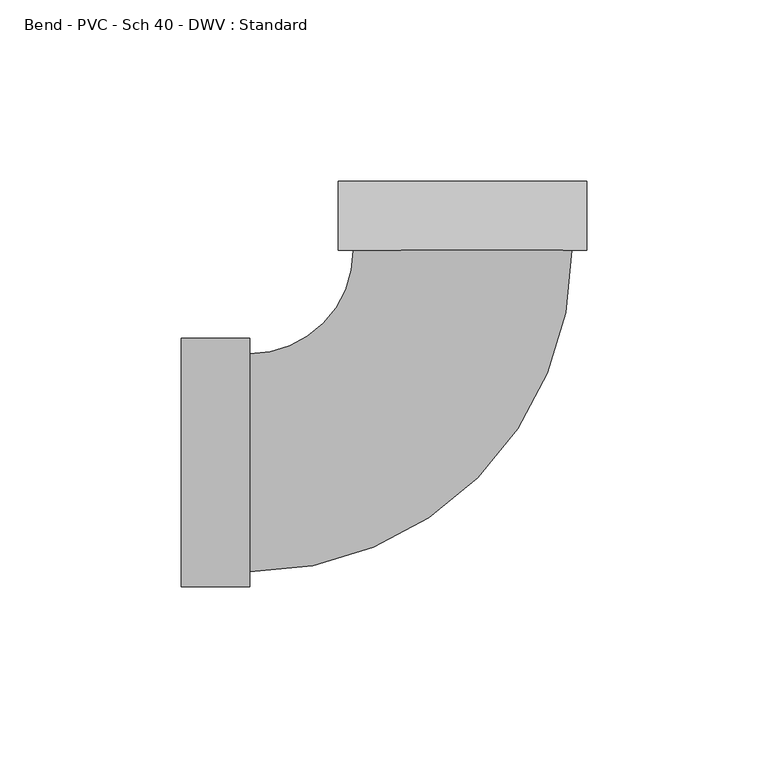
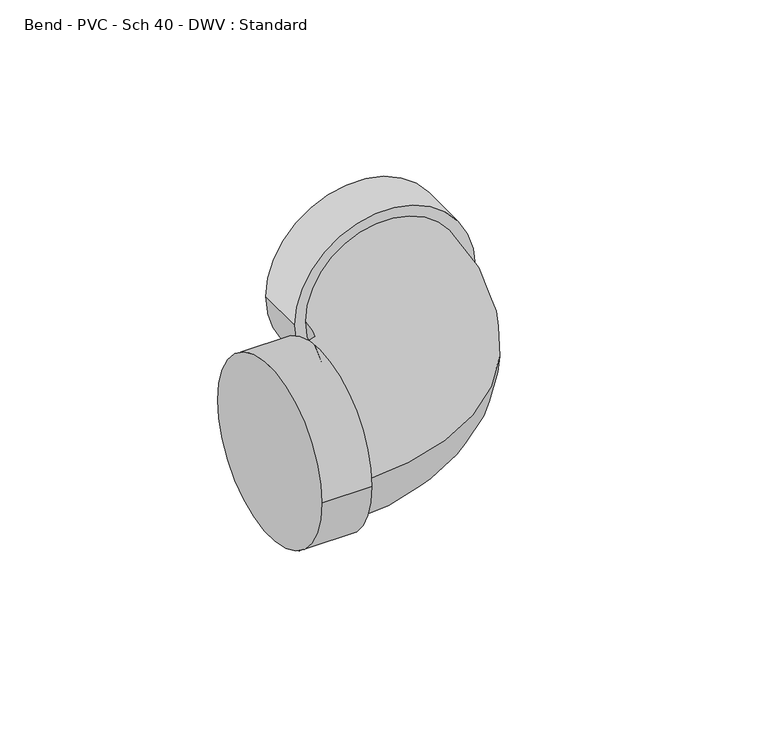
"""IFC4 building model written with IfcOpenShell, lengths in millimetres: pipe fitting geometry, Bend - PVC - Sch 40 - DWV : Standard."""

from ifc_helpers import new_model, si_unit, point, frame, origin, place, context, project, spatial, circle_curve, ellipse_curve, trimmed, source, transform, mapped, element, save
from ifc_brep_helpers import plane_surface, cylinder_surface, revolved_surface, advanced_brep


def bend_pvc_sch_40_dwv_standard_baa756fd(model_context):
    return source(origin(), model_context, "Body", "AdvancedBrep", [
        advanced_brep(
        [(-77.8002, -34.3154, 0.0), (-77.8002, 34.3154, 0.0), (-58.7502, -34.3154, 0.0), (-58.7502, 34.3154, 0.0), (-58.7502, -30.1625, 0.0), (-58.7502, 30.1625, 0.0), (-30.1644752, 58.7491859, 0.0), (30.1605247, 58.7512141, 0.0), (34.3134247, 58.7513537, 0.0), (-34.3173752, 58.7490463, 0.0), (34.3127843, 77.8013537, 0.0), (-34.3180157, 77.7990462, 0.0)],
        [
            (0, 1, circle_curve(frame((-77.8002, 0.0, 0.0), z_axis=(-1.0, 0.0, 0.0), x_axis=(0.0, 1.0, 0.0)), 34.3154)),
            (1, 0, circle_curve(frame((-77.8002, 0.0, 0.0), z_axis=(-1.0, 0.0, 0.0), x_axis=(0.0, 1.0, 0.0)), 34.3154)),
            (2, 3, circle_curve(frame((-58.7502, 0.0, 0.0), z_axis=(1.0, 0.0, 0.0), x_axis=(0.0, 1.0, 0.0)), 34.3154)),
            (3, 2, circle_curve(frame((-58.7502, 0.0, 0.0), z_axis=(1.0, 0.0, 0.0), x_axis=(0.0, 1.0, 0.0)), 34.3154)),
            (4, 5, circle_curve(frame((-58.7502, 0.0, 0.0), z_axis=(-1.0, 0.0, 0.0), x_axis=(0.0, 1.0, 0.0)), 30.1625)),
            (5, 4, circle_curve(frame((-58.7502, 0.0, 0.0), z_axis=(-1.0, 0.0, 0.0), x_axis=(0.0, 1.0, 0.0)), 30.1625)),
            (0, 2),
            (3, 1),
            (6, 5, circle_curve(frame((-58.7502, 58.7482248, 0.0), z_axis=(0.0, 0.0, -1.0), x_axis=(0.0, -1.0, 0.0)), 28.5857248)),
            (4, 7, circle_curve(frame((-58.7502, 58.7482248, 0.0), z_axis=(0.0, 0.0, 1.0), x_axis=(0.0, -1.0, 0.0)), 88.9107248)),
            (7, 6, circle_curve(frame((-0.0019752, 58.7502, 0.0), z_axis=(3.362090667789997e-05, -0.9999999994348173, 0.0), x_axis=(-0.9999999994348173, -3.362090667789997e-05, 0.0)), 30.1625)),
            (6, 7, circle_curve(frame((-0.0019752, 58.7502, 0.0), z_axis=(3.362090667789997e-05, -0.9999999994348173, 0.0), x_axis=(-0.9999999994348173, -3.362090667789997e-05, 0.0)), 30.1625)),
            (8, 9, circle_curve(frame((-0.0019752, 58.7502, 0.0), z_axis=(3.362090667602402e-05, -0.9999999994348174, 0.0), x_axis=(-0.9999999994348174, -3.362090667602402e-05, 0.0)), 34.3154)),
            (9, 8, circle_curve(frame((-0.0019752, 58.7502, 0.0), z_axis=(3.362090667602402e-05, -0.9999999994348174, 0.0), x_axis=(-0.9999999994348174, -3.362090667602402e-05, 0.0)), 34.3154)),
            (10, 11, circle_curve(frame((-0.0026157, 77.8002, 0.0), z_axis=(-3.362090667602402e-05, 0.9999999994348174, 0.0), x_axis=(-0.9999999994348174, -3.362090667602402e-05, 0.0)), 34.3154)),
            (11, 10, circle_curve(frame((-0.0026157, 77.8002, 0.0), z_axis=(-3.362090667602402e-05, 0.9999999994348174, 0.0), x_axis=(-0.9999999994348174, -3.362090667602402e-05, 0.0)), 34.3154)),
            (8, 10),
            (11, 9),
        ],
        [
            plane_surface(frame((-77.8002, 0.0, 0.0), z_axis=(-1.0, 0.0, 0.0), x_axis=(0.0, 0.0, 1.0))),
            plane_surface(frame((-58.7502, 0.0, 0.0), z_axis=(1.0, 0.0, 0.0), x_axis=(0.0, 0.0, 1.0))),
            cylinder_surface(frame((-77.8002, 0.0, 0.0), z_axis=(-1.0, 0.0, 0.0), x_axis=(0.0, 1.0, 0.0)), 34.3154),
            revolved_surface(trimmed(ellipse_curve(frame((-58.7502, 0.0, 0.0), z_axis=(-1.0, 0.0, 0.0), x_axis=(0.0, 1.0, 0.0)), 30.1625, 30.1625), [point((-58.7502, -30.1625, 0.0))], [point((-58.7502, 30.1625, 0.0))], True, "CARTESIAN"), (-58.7502, 58.7482248, 0.0), (0.0, 0.0, 1.0)),
            revolved_surface(trimmed(ellipse_curve(frame((-58.7502, 0.0, 0.0), z_axis=(-1.0, 0.0, 0.0), x_axis=(0.0, 1.0, 0.0)), 30.1625, 30.1625), [point((-58.7502, 30.1625, 0.0))], [point((-58.7502, -30.1625, 0.0))], True, "CARTESIAN"), (-58.7502, 58.7482248, 0.0), (0.0, 0.0, 1.0)),
            plane_surface(frame((-0.0019752, 58.7502, 0.0), z_axis=(3.362090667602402e-05, -0.9999999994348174, 0.0), x_axis=(0.0, 0.0, 1.0))),
            plane_surface(frame((-0.0026157, 77.8002, 0.0), z_axis=(-3.362090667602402e-05, 0.9999999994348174, 0.0), x_axis=(0.0, 0.0, 1.0))),
            cylinder_surface(frame((-0.0019752, 58.7502, 0.0), z_axis=(3.362090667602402e-05, -0.9999999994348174, 0.0), x_axis=(-0.9999999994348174, -3.362090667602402e-05, 0.0)), 34.3154),
        ],
        [
            (0, [[1, 2]]),
            (1, [[3, 4], [5, 6]]),
            (2, [[-1, 7, -4, 8]]),
            (2, [[-2, -8, -3, -7]]),
            (3, [[9, -5, 10, 11]]),
            (4, [[-9, 12, -10, -6]]),
            (5, [[13, 14], [-11, -12]]),
            (6, [[15, 16]]),
            (7, [[-13, 17, -16, 18]]),
            (7, [[-14, -18, -15, -17]]),
        ],
    ),
    ])


if __name__ == "__main__":
    model = new_model("IFC4")
    model_context = context("Model", 3, world=origin())
    ifc_project = project(units=[si_unit("LENGTHUNIT", "METRE", prefix="MILLI")], contexts=[model_context])
    site = spatial("IfcSite", under=ifc_project)
    building = spatial("IfcBuilding", under=site)
    placement = place(None, origin())
    bend_pvc_sch_40_dwv_standard_shape = bend_pvc_sch_40_dwv_standard_baa756fd(model_context)
    element("IfcPipeFitting", 1, ObjectType="Bend - PVC - Sch 40 - DWV : Standard", at=placement, inside=building, context=model_context, shape_type="MappedRepresentation", body=[
        mapped(bend_pvc_sch_40_dwv_standard_shape, transform((0.0, 0.0, 0.0), x_axis=(1.0, 0.0, 0.0), y_axis=(0.0, 1.0, 0.0), z_axis=(0.0, 0.0, 1.0))),
    ])
    save(model, "model.ifc")
